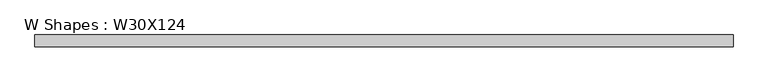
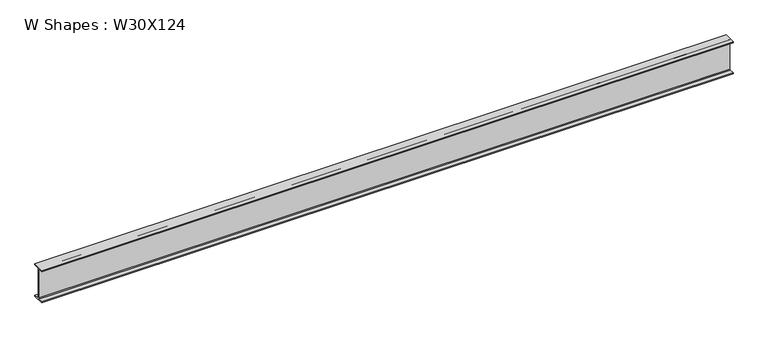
"""IFC4 building model written with IfcOpenShell, lengths in millimetres: beam geometry, W Shapes : W30X124."""

from ifc_helpers import new_model, si_unit, point, frame, frame_2d, origin, place, context, project, spatial, polyline, circle_curve, trimmed, segment, composite_curve, outline, extrude, source, transform, mapped, element, save


def w_shapes_w30x124_4285aa25(model_context):
    return source(origin(), model_context, "Body", "SweptSolid", [
        extrude(outline(composite_curve([segment(polyline([(133.35, -359.918), (133.35, -383.54), (-133.35, -383.54), (-133.35, -359.918), (-24.003, -359.918)]), True, "CONTINUOUS"), segment(trimmed(circle_curve(frame_2d((-24.003, -343.408)), 16.51), [point((-24.003, -359.918))], [point((-7.493, -343.408))], True, "CARTESIAN"), True, "CONTINUOUS"), segment(polyline([(-7.493, -343.408), (-7.493, 343.408)]), True, "CONTINUOUS"), segment(trimmed(circle_curve(frame_2d((-24.003, 343.408)), 16.51), [point((-7.493, 343.408))], [point((-24.003, 359.918))], True, "CARTESIAN"), True, "CONTINUOUS"), segment(polyline([(-24.003, 359.918), (-133.35, 359.918), (-133.35, 383.54), (133.35, 383.54), (133.35, 359.918), (24.003, 359.918)]), True, "CONTINUOUS"), segment(trimmed(circle_curve(frame_2d((24.003, 343.408)), 16.51), [point((24.003, 359.918))], [point((7.493, 343.408))], True, "CARTESIAN"), True, "CONTINUOUS"), segment(polyline([(7.493, 343.408), (7.493, -343.408)]), True, "CONTINUOUS"), segment(trimmed(circle_curve(frame_2d((24.003, -343.408)), 16.51), [point((7.493, -343.408))], [point((24.003, -359.918))], True, "CARTESIAN"), True, "CONTINUOUS"), segment(polyline([(24.003, -359.918), (133.35, -359.918)]), True, "CONTINUOUS")], self_intersect=False)), frame((-7790.4495102, 0.0, 0.0), z_axis=(1.0, 0.0, 0.0), x_axis=(0.0, 1.0, 0.0)), (0.0, 0.0, 1.0), 15580.8990204),
    ])


if __name__ == "__main__":
    model = new_model("IFC4")
    model_context = context("Model", 3, world=origin())
    ifc_project = project(units=[si_unit("LENGTHUNIT", "METRE", prefix="MILLI")], contexts=[model_context])
    site = spatial("IfcSite", under=ifc_project)
    building = spatial("IfcBuilding", under=site)
    placement = place(None, origin())
    w_shapes_w30x124_shape = w_shapes_w30x124_4285aa25(model_context)
    element("IfcBeam", 1, ObjectType="W Shapes : W30X124", at=placement, inside=building, context=model_context, shape_type="MappedRepresentation", body=[
        mapped(w_shapes_w30x124_shape, transform((0.0, 0.0, 0.0), x_axis=(1.0, 0.0, 0.0), y_axis=(0.0, 1.0, 0.0), z_axis=(0.0, 0.0, 1.0))),
    ])
    save(model, "model.ifc")
